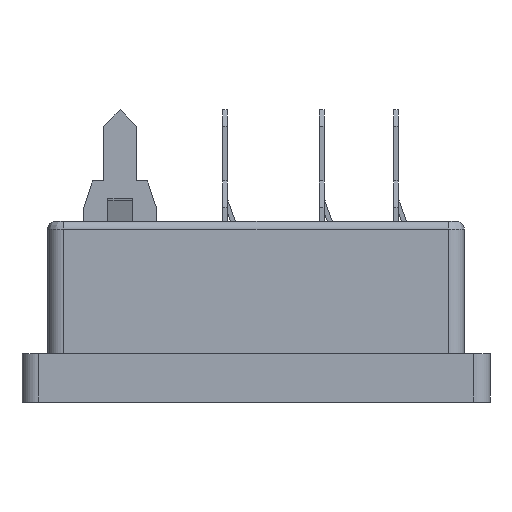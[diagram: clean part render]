
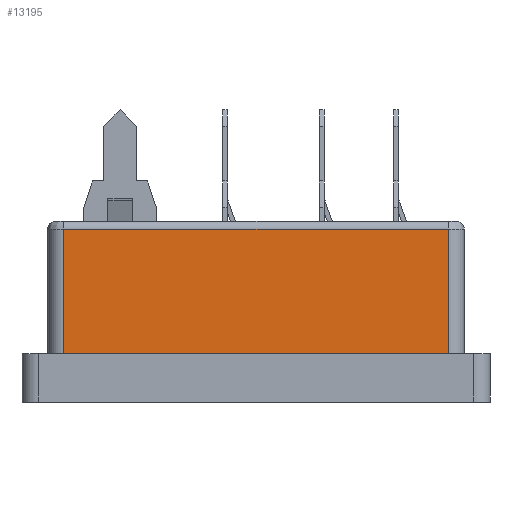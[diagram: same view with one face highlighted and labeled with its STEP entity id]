
A CAD part, left-side view. The second image highlights one B-rep face of the part: STEP entity #13195.
In plain terms, the highlighted planar face has unit normal (-1, 0, 0).
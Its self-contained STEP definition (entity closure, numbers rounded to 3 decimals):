
#11408=FACE_OUTER_BOUND('',#17082,.T.);
#13195=ADVANCED_FACE('',(#11408),#15030,.T.);
#15030=PLANE('',#44481);
#17082=EDGE_LOOP('',(#20185,#20186,#20187,#20188));
#20185=ORIENTED_EDGE('',*,*,#32808,.T.);
#20186=ORIENTED_EDGE('',*,*,#32809,.T.);
#20187=ORIENTED_EDGE('',*,*,#32810,.T.);
#20188=ORIENTED_EDGE('',*,*,#32811,.F.);
#29709=VERTEX_POINT('',#57382);
#29710=VERTEX_POINT('',#57383);
#29711=VERTEX_POINT('',#57385);
#29712=VERTEX_POINT('',#57387);
#32808=EDGE_CURVE('',#29709,#29710,#37445,.T.);
#32809=EDGE_CURVE('',#29710,#29711,#37446,.T.);
#32810=EDGE_CURVE('',#29711,#29712,#37447,.T.);
#32811=EDGE_CURVE('',#29709,#29712,#37448,.T.);
#37445=LINE('',#57381,#41042);
#37446=LINE('',#57384,#41043);
#37447=LINE('',#57386,#41044);
#37448=LINE('',#57388,#41045);
#41042=VECTOR('',#47401,1.);
#41043=VECTOR('',#47402,1.);
#41044=VECTOR('',#47403,1.);
#41045=VECTOR('',#47404,1.);
#44481=AXIS2_PLACEMENT_3D('',#57389,#47405,#47406);
#47401=DIRECTION('',(0.,0.,1.));
#47402=DIRECTION('',(0.,1.,0.));
#47403=DIRECTION('',(0.,0.,-1.));
#47404=DIRECTION('',(0.,1.,0.));
#47405=DIRECTION('',(-1.,0.,0.));
#47406=DIRECTION('',(0.,-1.,0.));
#57381=CARTESIAN_POINT('',(-19.65,-12.227,25.5));
#57382=CARTESIAN_POINT('',(-19.65,-12.227,3.));
#57383=CARTESIAN_POINT('',(-19.65,-12.227,10.7));
#57384=CARTESIAN_POINT('',(-19.65,-13.227,10.7));
#57385=CARTESIAN_POINT('',(-19.65,11.573,10.7));
#57386=CARTESIAN_POINT('',(-19.65,11.573,25.5));
#57387=CARTESIAN_POINT('',(-19.65,11.573,3.));
#57388=CARTESIAN_POINT('',(-19.65,-13.227,3.));
#57389=CARTESIAN_POINT('',(-19.65,-13.227,25.5));
